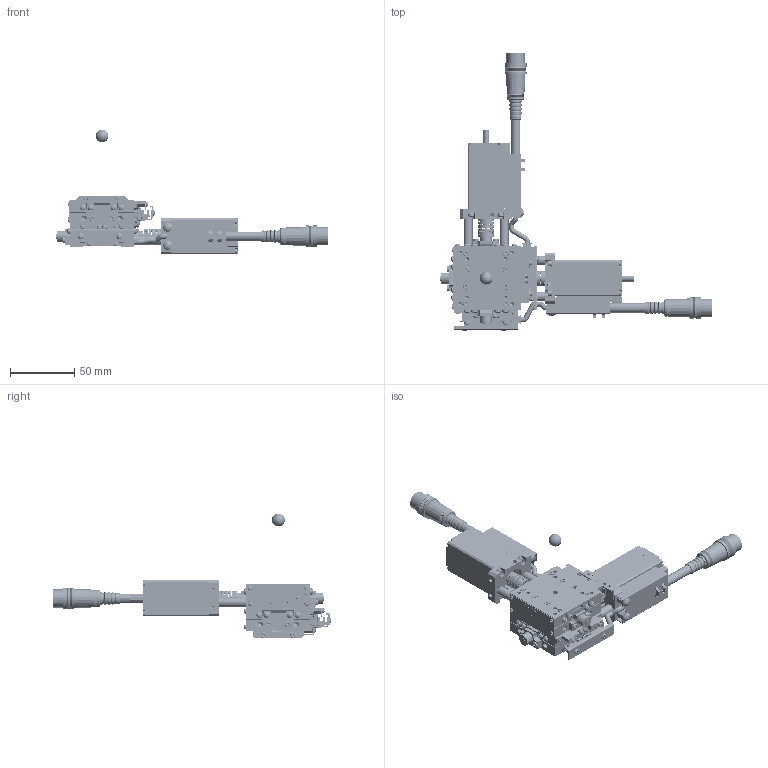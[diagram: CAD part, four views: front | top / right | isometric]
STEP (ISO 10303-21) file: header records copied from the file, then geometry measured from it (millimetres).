
FILE_DESCRIPTION (( 'STEP AP203' ), '1' );
FILE_NAME ('SA05B-RS02-RRR.STEP', '2019-02-26T08:36:59', ( '' ), ( '' ), 'SwSTEP 2.0', 'SolidWorks 2018', '' );
FILE_SCHEMA (( 'CONFIG_CONTROL_DESIGN' ));
Length unit declared in the file: millimetre
Products named in the file (12): base-Part-3; second table-Part-4; second table; second table-Part-3; base-Part-1; table; base-Part-2; second table-Part-2; rotation center; base; SA05B-RS02-RRR; second table-Part-1
Assembly tree (10 placements, depth 3):
  SA05B-RS02-RRR
    second table
      second table-Part-2
      second table-Part-3
      second table-Part-4
    base
      base-Part-1
      base-Part-2
      base-Part-3
    table
    rotation center
  second table-Part-1
Bounding box: 211 x 216.68 x 97 mm (x, y, z)
Volume: 216790.7 mm3; surface area: 95941.9 mm2
Topology: 8 solids, 16 shells, 5499 faces, 13815 edges, 8561 vertices
Faces by surface type: plane 3413, cylinder 1268, cone 452, torus 256, sphere 98, bspline 12
Entity records: 168628 total; most frequent: CARTESIAN_POINT 33387, DIRECTION 29028, ORIENTED_EDGE 27236, EDGE_CURVE 13618, AXIS2_PLACEMENT_3D 10231, VECTOR 8566, LINE 8566, VERTEX_POINT 8550
